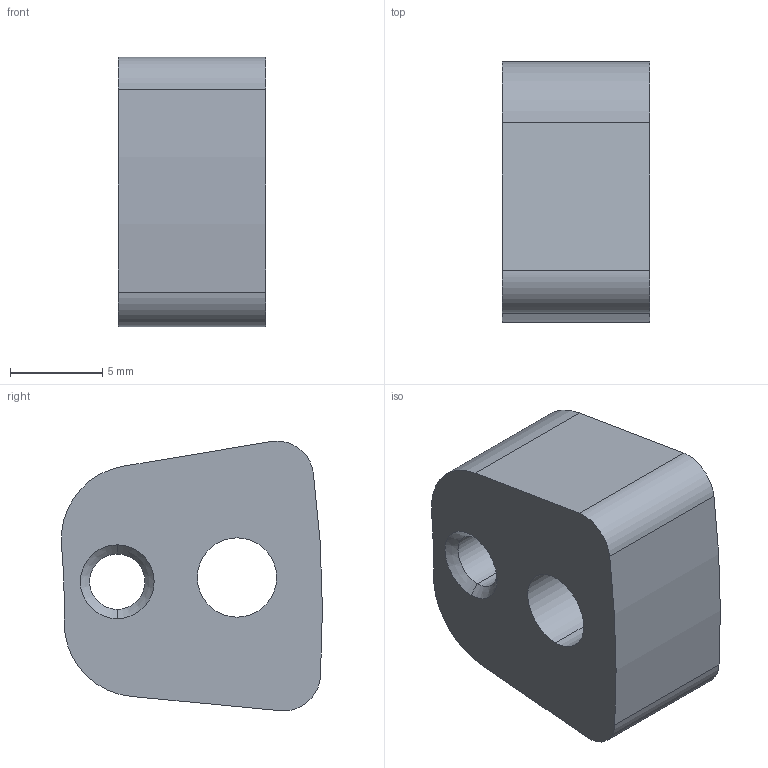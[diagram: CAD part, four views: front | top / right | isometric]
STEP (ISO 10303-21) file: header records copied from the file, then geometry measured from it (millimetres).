
FILE_DESCRIPTION((''),'2;1');
FILE_NAME('KD-D-105R_1','2025-07-13T09:56:58',('Administrator'),(''),'CREO PARAMETRIC BY PTC INC, 2022073','CREO PARAMETRIC BY PTC INC, 2022073','');
FILE_SCHEMA(('CONFIG_CONTROL_DESIGN'));
Length unit declared in the file: millimetre
Products named in the file (1): KD-D-105R_1
Bounding box: 8 x 14.15 x 14.64 mm (x, y, z)
Volume: 1100.8 mm3; surface area: 942.6 mm2
Topology: 1 solids, 1 shells, 49 faces, 132 edges, 88 vertices
Faces by surface type: plane 33, cylinder 12, cone 4
Entity records: 1584 total; most frequent: CARTESIAN_POINT 269, ORIENTED_EDGE 264, DIRECTION 262, EDGE_CURVE 132, VECTOR 100, LINE 100, VERTEX_POINT 88, AXIS2_PLACEMENT_3D 81
